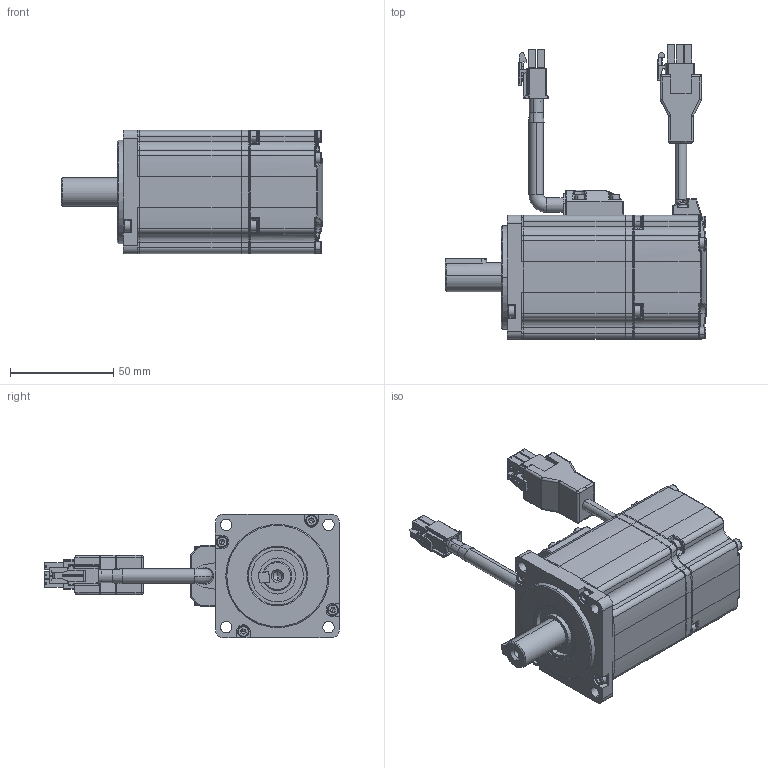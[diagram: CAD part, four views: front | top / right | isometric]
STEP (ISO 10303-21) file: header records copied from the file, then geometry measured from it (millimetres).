
FILE_DESCRIPTION (( 'STEP AP203' ), '1' );
FILE_NAME ('EM3A-02AFA.STEP', '2020-04-10T02:14:43', ( '' ), ( '' ), 'SwSTEP 2.0', 'SolidWorks 2018', '' );
FILE_SCHEMA (( 'CONFIG_CONTROL_DESIGN' ));
Length unit declared in the file: millimetre
Products named in the file (26): EM3A04A-120-A1（前端盖）; EM3A-02AFA; 萇擢; spring lock washers--normal type gb_GB_FASTENER_WASHER_SW 3BX; 粣  EM3A02A-310-A5-S1; 脣芛誘杶; hexagon socket head cap screws gb_GB_FASTENER_SCREWS_HSHCS M3X12-NHDA; EM3A02A-210-A-S2（机壳）_211 机壳; 172169-1ㄗAMPㄘ; M3-12LD; EM3A04A-410-A1-S2（编码器罩）_B2; 晤鎢傷辿盄; hexagon socket head cap screws gb_GB_FASTENER_SCREWS_HSHCS M3X40-NHDA; 埴芛す瑩5X20; 4X0.75+2X0.35（申远电缆）_不带抱闸; hexagon socket head cap screws gb_GB_FASTENER_SCREWS_HSHCS M2.5X12-NHDA; EM3A04A-280-A-S1（电源引线垫）; 热缩套管（直径8黑色）; cross recessed pan head tapping screws gb_GB_CROSS_SCREWS_TYPE128 ST2.2X9.5 H C-NBX; EM3A04A-270-A-S2（电源引线盒）; 172167-1ㄗAMPㄘ; EM3A04A-130-A6（后端盖）; EM3A04A-430-A-S1（编码器引线垫）; 雄薯辿盄; WA14｡ﾁ28｡ﾁ4 FKM; EM3A04A-420-A-S1（编码器引线盒）
Assembly tree (39 placements, depth 3):
  EM3A-02AFA
    EM3A04A-120-A1（前端盖）
    粣  EM3A02A-310-A5-S1
    EM3A02A-210-A-S2（机壳）_211 机壳
    EM3A04A-410-A1-S2（编码器罩）_B2
    埴芛す瑩5X20
    EM3A04A-280-A-S1（电源引线垫）
    EM3A04A-270-A-S2（电源引线盒）
    EM3A04A-430-A-S1（编码器引线垫）
    EM3A04A-420-A-S1（编码器引线盒）
    M3-12LD  x8
      spring lock washers--normal type gb_GB_FASTENER_WASHER_SW 3BX
      hexagon socket head cap screws gb_GB_FASTENER_SCREWS_HSHCS M3X12-NHDA
    hexagon socket head cap screws gb_GB_FASTENER_SCREWS_HSHCS M3X40-NHDA  x4
    hexagon socket head cap screws gb_GB_FASTENER_SCREWS_HSHCS M2.5X12-NHDA  x4
    cross recessed pan head tapping screws gb_GB_CROSS_SCREWS_TYPE128 ST2.2X9.5 H C-NBX  x2
    EM3A04A-130-A6（后端盖）
    WA14｡ﾁ28｡ﾁ4 FKM
    晤鎢傷辿盄
      萇擢
      脣芛誘杶
      172169-1ㄗAMPㄘ
    雄薯辿盄
      4X0.75+2X0.35（申远电缆）_不带抱闸
      热缩套管（直径8黑色）
      172167-1ㄗAMPㄘ
Bounding box: 126.5 x 142.7 x 60 mm (x, y, z)
Volume: 155296.9 mm3; surface area: 94474.1 mm2
Topology: 43 solids, 43 shells, 2502 faces, 6129 edges, 3751 vertices
Faces by surface type: plane 1149, cylinder 745, cone 249, torus 187, bspline 113, sphere 59
Entity records: 66904 total; most frequent: CARTESIAN_POINT 14660, DIRECTION 10337, ORIENTED_EDGE 10216, EDGE_CURVE 5108, AXIS2_PLACEMENT_3D 3727, VERTEX_POINT 3173, LINE 2883, VECTOR 2883
